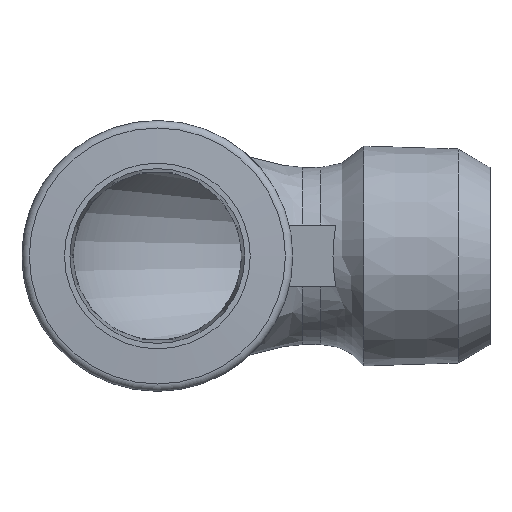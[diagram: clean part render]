
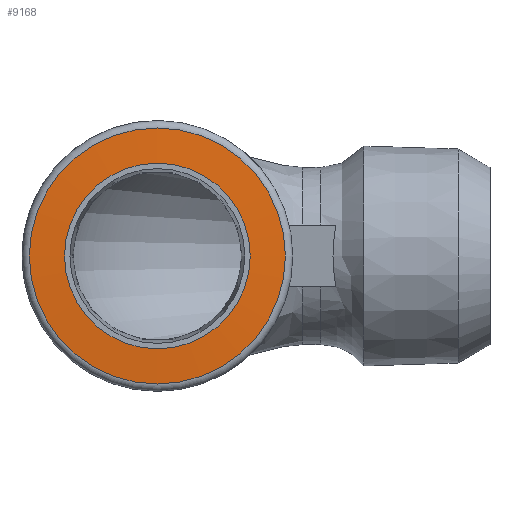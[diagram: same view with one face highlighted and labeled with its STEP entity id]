
A CAD part, front view. The second image highlights one B-rep face of the part: STEP entity #9168.
In plain terms, the highlighted conical face has half-angle 87 degrees and reference radius 14.75 mm.
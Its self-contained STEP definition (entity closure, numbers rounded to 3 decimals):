
#8578=CARTESIAN_POINT('',(12.0,0.0,0.));
#8579=VERTEX_POINT('',#8578);
#8580=CARTESIAN_POINT('',(0.0,0.0,0.0));
#8581=DIRECTION('',(0.0,1.0,0.0));
#8582=DIRECTION('',(-1.0,0.0,0.0));
#8583=AXIS2_PLACEMENT_3D('',#8580,#8581,#8582);
#8584=CIRCLE('',#8583,12.0);
#8585=EDGE_CURVE('',#8579,#8579,#8584,.T.);
#9149=CARTESIAN_POINT('',(0.0,0.144,0.0));
#9150=DIRECTION('',(0.0,1.0,0.0));
#9151=DIRECTION('',(-1.0,0.0,0.0));
#9152=AXIS2_PLACEMENT_3D('',#9149,#9150,#9151);
#9153=CONICAL_SURFACE('',#9152,14.75,87.);
#9154=ORIENTED_EDGE('',*,*,#8585,.T.);
#9155=EDGE_LOOP('',(#9154));
#9156=FACE_OUTER_BOUND('',#9155,.T.);
#9157=CARTESIAN_POINT('',(16.552,0.239,0.));
#9158=VERTEX_POINT('',#9157);
#9159=CARTESIAN_POINT('',(0.0,0.239,0.));
#9160=DIRECTION('',(0.0,1.0,0.0));
#9161=DIRECTION('',(-1.0,0.0,0.0));
#9162=AXIS2_PLACEMENT_3D('',#9159,#9160,#9161);
#9163=CIRCLE('',#9162,16.552);
#9164=EDGE_CURVE('',#9158,#9158,#9163,.T.);
#9165=ORIENTED_EDGE('',*,*,#9164,.F.);
#9166=EDGE_LOOP('',(#9165));
#9167=FACE_BOUND('',#9166,.T.);
#9168=ADVANCED_FACE('',(#9156,#9167),#9153,.T.);
